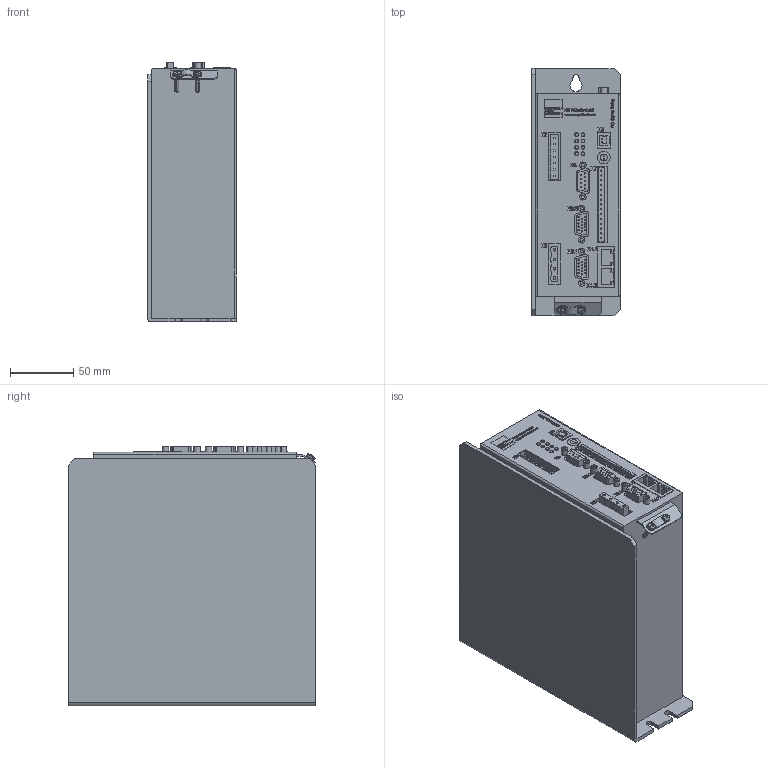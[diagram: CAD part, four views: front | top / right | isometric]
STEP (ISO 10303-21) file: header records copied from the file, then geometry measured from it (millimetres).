
FILE_DESCRIPTION(/* description */ ('Alibre Inc.'),/* implementation_level */ '2;1');
FILE_NAME(/* name */ 'export0',/* time_stamp */ '2014-04-17T14:33:41+02:00',/* author */ (''),/* organization */ (''),/* preprocessor_version */ 'ST-DEVELOPER v12',/* originating_system */ 'Alibre',/* authorisation */ '');
FILE_SCHEMA (('AUTOMOTIVE_DESIGN'));
Length unit declared in the file: centimetre
Products named in the file (4): BÜLTE | rundkopfschrauben_M3_16
Bounding box: 70 x 195 x 205 mm (x, y, z)
Surface area: 145546.7 mm2
Topology: 23 solids, 34 shells, 2199 faces, 5658 edges, 3760 vertices
Faces by surface type: plane 1161, bspline 809, cylinder 213, torus 8, sphere 4, cone 4
Full cylindrical faces by diameter (mm): 1 x72, 2 x4, 2.5 x20, 3 x8, 3.1 x2, 5 x20, 5.5 x1, 10 x1
Entity records: 64869 total; most frequent: CARTESIAN_POINT 18608, ORIENTED_EDGE 10968, DIRECTION 5832, EDGE_CURVE 5464, VERTEX_POINT 3722, VECTOR 3420, LINE 3420, EDGE_LOOP 2610
